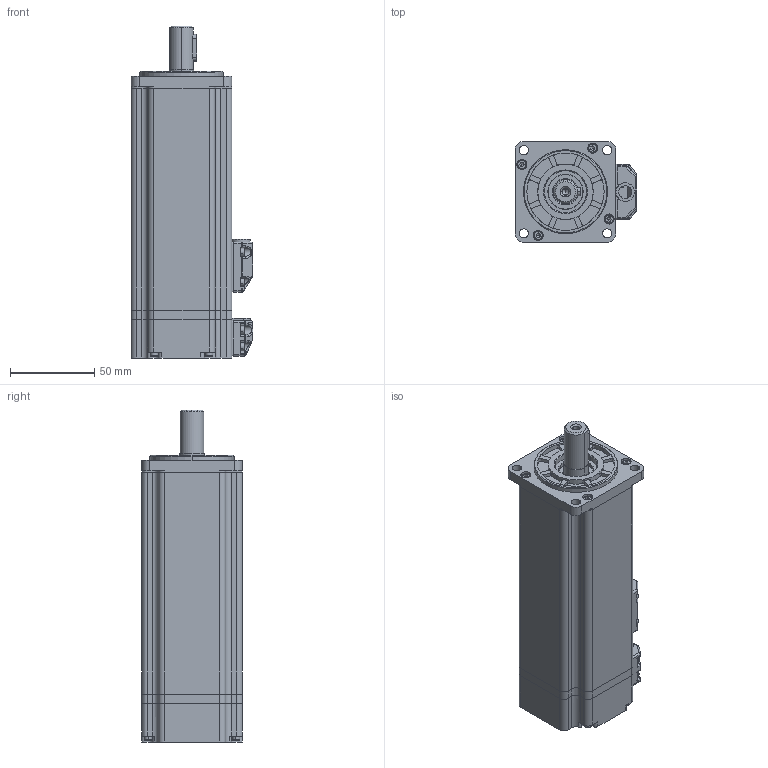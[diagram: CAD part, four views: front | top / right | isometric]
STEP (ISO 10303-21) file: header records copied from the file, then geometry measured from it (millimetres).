
FILE_DESCRIPTION (( 'STEP AP203' ), '1' );
FILE_NAME ('淕儂蚾饜.STEP', '2020-04-01T08:39:39', ( 'admin' ), ( '' ), 'SwSTEP 2.0', 'SolidWorks 2016', '' );
FILE_SCHEMA (( 'CONFIG_CONTROL_DESIGN' ));
Length unit declared in the file: millimetre
Products named in the file (1): 淕儂蚾饜
Bounding box: 72.5 x 60 x 197.5 mm (x, y, z)
Volume: 242169.2 mm3; surface area: 133213.1 mm2
Topology: 29 solids, 29 shells, 1601 faces, 4277 edges, 2673 vertices
Faces by surface type: cylinder 667, plane 595, cone 151, torus 94, sphere 70, bspline 24
Entity records: 52896 total; most frequent: CARTESIAN_POINT 13070, DIRECTION 8675, ORIENTED_EDGE 8186, EDGE_CURVE 4093, AXIS2_PLACEMENT_3D 3378, VERTEX_POINT 2609, VECTOR 1919, LINE 1919
